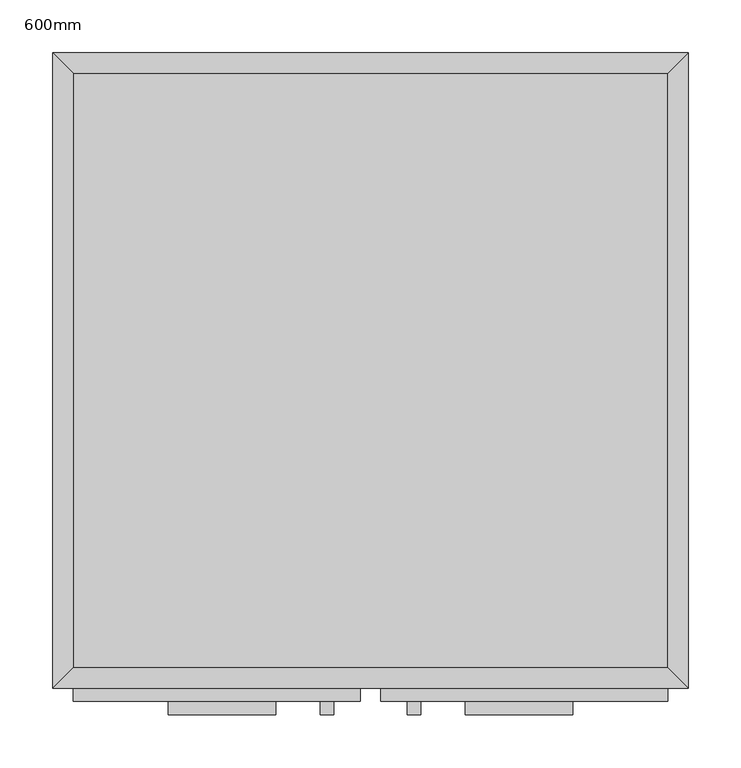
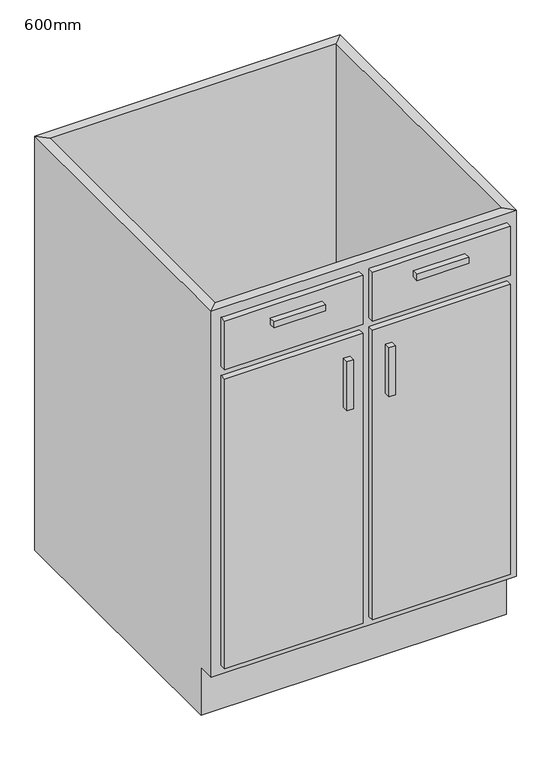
"""IFC4 building model written with IfcOpenShell, lengths in millimetres: furniture geometry, M_Base Cabinet-Double Door & 2 Drawer : 600mm."""

from ifc_helpers import new_model, si_unit, frame, origin, place, context, project, spatial, polyline, outline, extrude, faceted_brep, source, transform, mapped, element, save


def furniture_600mm_74c6c1e3(model_context):
    return source(origin(), model_context, "Body", "SolidModel", [
        faceted_brep([(299.6877049, -580.95, 860.0), (299.6877049, -580.95, 100.0), (-262.2122951, -580.95, 100.0), (-262.2122951, -580.95, 860.0), (-281.2622951, -600.0, 860.0), (318.7377049, -600.0, 860.0), (-281.2622951, -600.0, 100.0), (318.7377049, -600.0, 100.0), (-262.2122951, -565.0, 100.0), (-262.2122951, -19.05, 100.0), (-262.2122951, -19.05, 860.0), (-281.2622951, 0.0, 860.0), (-281.2622951, 0.0, 0.0), (-281.2622951, -565.0, 0.0), (-281.2622951, -565.0, 100.0), (299.6877049, -19.05, 100.0), (299.6877049, -19.05, 860.0), (318.7377049, 0.0, 860.0), (318.7377049, 0.0, 0.0), (299.6877049, -565.0, 100.0), (318.7377049, -565.0, 100.0), (318.7377049, -565.0, 0.0)], [[[0, 1, 2, 3]], [[0, 3, 4, 5]], [[5, 4, 6, 7]], [[2, 1, 7, 6]], [[3, 2, 8, 9, 10]], [[4, 3, 10, 11]], [[6, 4, 11, 12, 13, 14]], [[2, 6, 14, 8]], [[10, 9, 15, 16]], [[11, 10, 16, 17]], [[12, 11, 17, 18]], [[1, 0, 16, 15, 19]], [[0, 5, 17, 16]], [[5, 7, 20, 21, 18, 17]], [[7, 1, 19, 20]], [[8, 19, 15, 9]], [[18, 21, 13, 12]], [[13, 21, 20, 19, 8, 14]]]),
        extrude(outline(polyline([(-70.9372951, -625.4), (-172.5372951, -625.4), (-172.5372951, -612.7), (-70.9372951, -612.7), (-70.9372951, -625.4)])), frame((0.0, 0.0, 802.85), z_axis=(0.0, 0.0, 1.0), x_axis=(1.0, 0.0, 0.0)), (0.0, 0.0, 1.0), 12.7),
        extrude(outline(polyline([(210.0127049, -625.4), (108.4127049, -625.4), (108.4127049, -612.7), (210.0127049, -612.7), (210.0127049, -625.4)])), frame((0.0, 0.0, 802.85), z_axis=(0.0, 0.0, 1.0), x_axis=(1.0, 0.0, 0.0)), (0.0, 0.0, 1.0), 12.7),
        extrude(outline(polyline([(-16.1872951, -625.4), (-28.8872951, -625.4), (-28.8872951, -612.7), (-16.1872951, -612.7), (-16.1872951, -625.4)])), frame((0.0, 0.0, 580.6), z_axis=(0.0, 0.0, 1.0), x_axis=(1.0, 0.0, 0.0)), (0.0, 0.0, 1.0), 101.6),
        extrude(outline(polyline([(66.3627049, -625.4), (53.6627049, -625.4), (53.6627049, -612.7), (66.3627049, -612.7), (66.3627049, -625.4)])), frame((0.0, 0.0, 580.6), z_axis=(0.0, 0.0, 1.0), x_axis=(1.0, 0.0, 0.0)), (0.0, 0.0, 1.0), 101.6),
        extrude(outline(polyline([(9.2127049, -612.7), (-262.2122951, -612.7), (-262.2122951, -600.0), (9.2127049, -600.0), (9.2127049, -612.7)])), frame((0.0, 0.0, 739.35), z_axis=(0.0, 0.0, 1.0), x_axis=(1.0, 0.0, 0.0)), (0.0, 0.0, 1.0), 101.6),
        extrude(outline(polyline([(299.6877049, -612.7), (28.2627049, -612.7), (28.2627049, -600.0), (299.6877049, -600.0), (299.6877049, -612.7)])), frame((0.0, 0.0, 739.35), z_axis=(0.0, 0.0, 1.0), x_axis=(1.0, 0.0, 0.0)), (0.0, 0.0, 1.0), 101.6),
        extrude(outline(polyline([(9.2127049, -612.7), (-262.2122951, -612.7), (-262.2122951, -600.0), (9.2127049, -600.0), (9.2127049, -612.7)])), frame((0.0, 0.0, 119.05), z_axis=(0.0, 0.0, 1.0), x_axis=(1.0, 0.0, 0.0)), (0.0, 0.0, 1.0), 601.25),
        extrude(outline(polyline([(299.6877049, -612.7), (28.2627049, -612.7), (28.2627049, -600.0), (299.6877049, -600.0), (299.6877049, -612.7)])), frame((0.0, 0.0, 119.05), z_axis=(0.0, 0.0, 1.0), x_axis=(1.0, 0.0, 0.0)), (0.0, 0.0, 1.0), 601.25),
        extrude(outline(polyline([(299.6877049, -19.05), (299.6877049, -580.95), (-262.2122951, -580.95), (-262.2122951, -19.05), (299.6877049, -19.05)])), frame((0.0, 0.0, 100.0), z_axis=(0.0, 0.0, 1.0), x_axis=(1.0, 0.0, 0.0)), (0.0, 0.0, 1.0), 19.05),
    ])


if __name__ == "__main__":
    model = new_model("IFC4")
    model_context = context("Model", 3, world=origin())
    ifc_project = project(units=[si_unit("LENGTHUNIT", "METRE", prefix="MILLI")], contexts=[model_context])
    site = spatial("IfcSite", under=ifc_project)
    building = spatial("IfcBuilding", under=site)
    placement = place(None, origin())
    furniture_600mm_shape = furniture_600mm_74c6c1e3(model_context)
    element("IfcFurniture", 1, ObjectType="M_Base Cabinet-Double Door & 2 Drawer : 600mm", at=placement, inside=building, context=model_context, shape_type="MappedRepresentation", body=[
        mapped(furniture_600mm_shape, transform((0.0, 0.0, 0.0), x_axis=(1.0, 0.0, 0.0), y_axis=(0.0, 1.0, 0.0), z_axis=(0.0, 0.0, 1.0))),
    ])
    save(model, "model.ifc")
